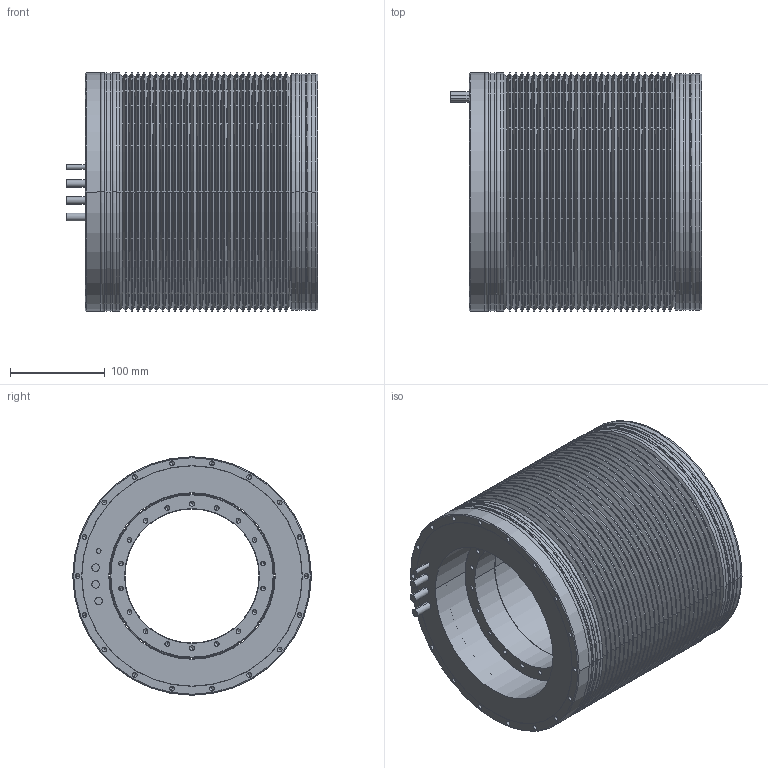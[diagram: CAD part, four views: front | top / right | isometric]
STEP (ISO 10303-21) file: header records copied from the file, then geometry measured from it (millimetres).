
FILE_DESCRIPTION((''),'2;1');
FILE_NAME('TK240-160','2017-10-26T',('stefanos'),(''),'CREO PARAMETRIC BY PTC INC, 2015480','CREO PARAMETRIC BY PTC INC, 2015480','');
FILE_SCHEMA(('CONFIG_CONTROL_DESIGN'));
Length unit declared in the file: millimetre
Products named in the file (1): TK240-160
Bounding box: 265 x 251 x 251 mm (x, y, z)
Volume: 7165753.9 mm3; surface area: 1341143.8 mm2
Topology: 9 solids, 9 shells, 599 faces, 1306 edges, 690 vertices
Faces by surface type: cylinder 290, cone 240, plane 37, torus 16, revolution 16
Entity records: 16862 total; most frequent: CARTESIAN_POINT 3975, DIRECTION 2984, ORIENTED_EDGE 2396, AXIS2_PLACEMENT_3D 1219, EDGE_CURVE 1198, VERTEX_POINT 690, EDGE_LOOP 690, CIRCLE 636
